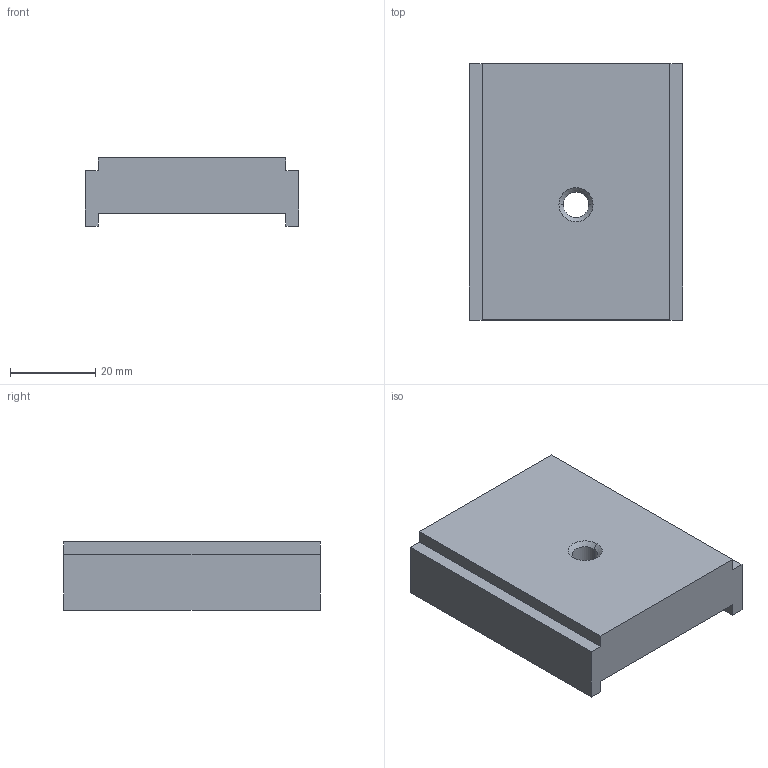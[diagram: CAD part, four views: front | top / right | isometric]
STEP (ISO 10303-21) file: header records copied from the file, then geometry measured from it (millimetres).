
FILE_DESCRIPTION (( 'STEP AP214' ), '1' );
FILE_NAME ('R2 SLA13.step', '2017-04-05T08:05:42', ( '' ), ( '' ), 'SwSTEP 2.0', 'SolidWorks 2015', '' );
FILE_SCHEMA (( 'AUTOMOTIVE_DESIGN' ));
Length unit declared in the file: millimetre
Products named in the file (1): R2 SLA13
Bounding box: 50 x 60 x 16 mm (x, y, z)
Volume: 38611.5 mm3; surface area: 9749 mm2
Topology: 1 solids, 1 shells, 20 faces, 50 edges, 32 vertices
Faces by surface type: plane 14, cone 4, cylinder 2
Entity records: 628 total; most frequent: CARTESIAN_POINT 103, ORIENTED_EDGE 100, DIRECTION 100, EDGE_CURVE 50, VECTOR 42, LINE 42, VERTEX_POINT 32, AXIS2_PLACEMENT_3D 29
